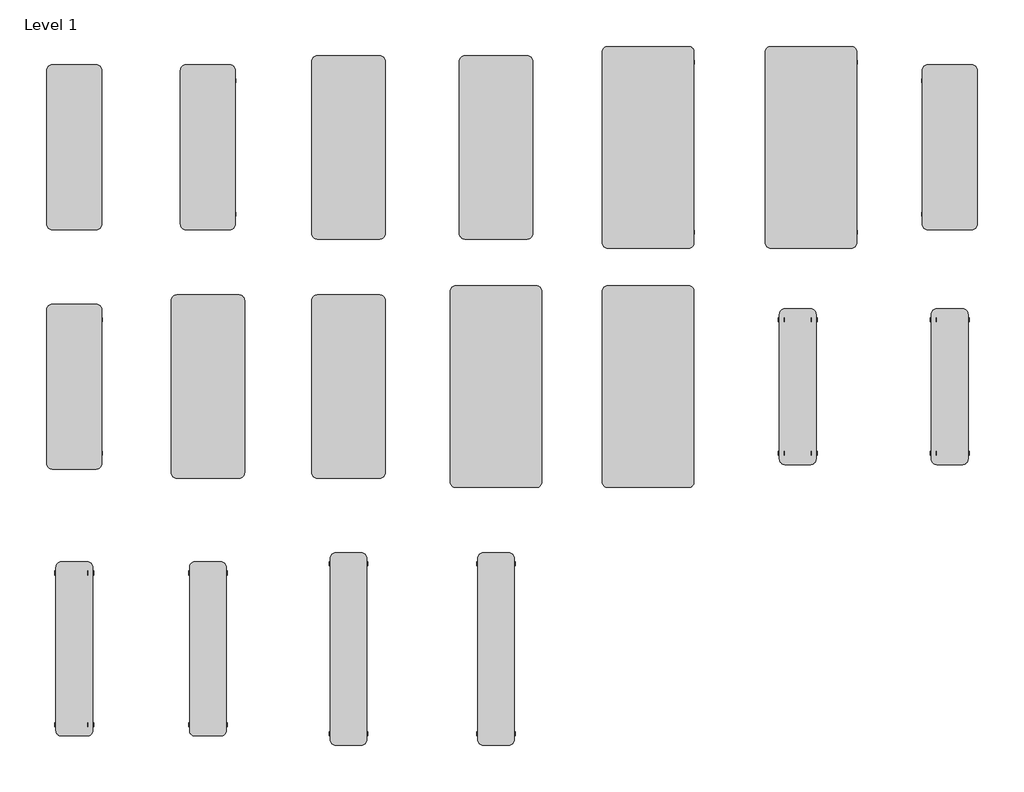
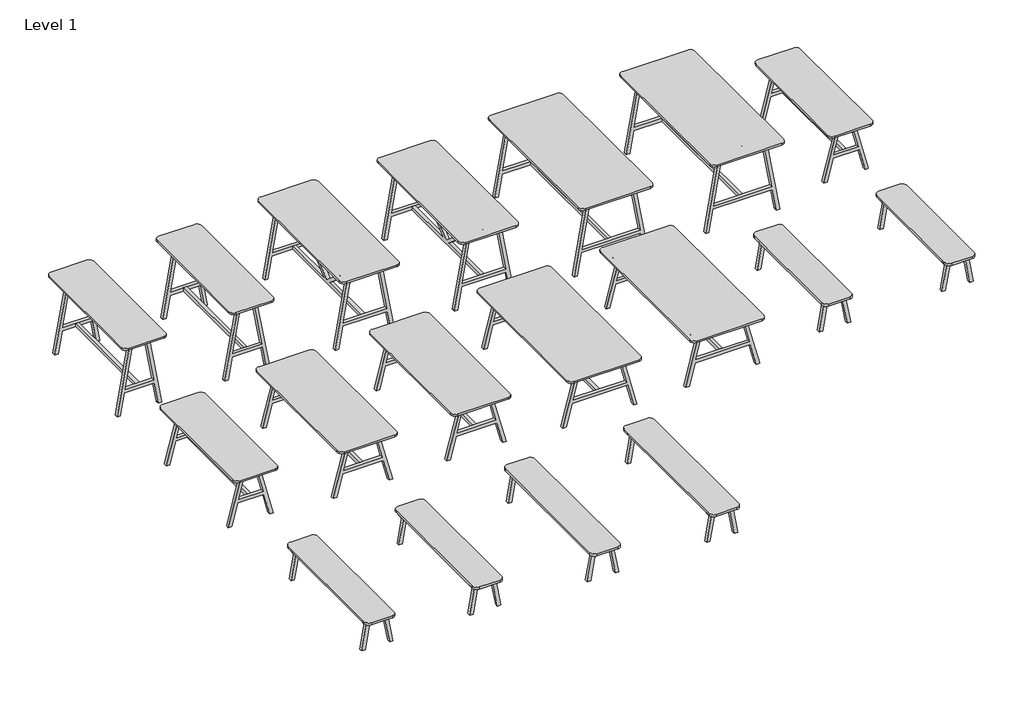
# One storey, incomplete: 18 furniture elements.
"""IFC4 building model written with IfcOpenShell, lengths in millimetres."""

from ifc_helpers import new_model, si_unit, origin, place, context, project, spatial, transform, mapped, element, save
from components import furniture_8b7b97e6, furniture_edffb28d, furniture_c897c1bd, furniture_621fa09e, furniture_62e1d99d, furniture_e7b2d70b, furniture_98158460, furniture_8639195a, furniture_34a17ae2

model = new_model("IFC4")

# Units and contexts
model_context = context("Model", 3, world=origin())
ifc_project = project(units=[si_unit("LENGTHUNIT", "METRE", prefix="MILLI")], contexts=[model_context])

# Site, building, storey
site = spatial("IfcSite", under=ifc_project)
building = spatial("IfcBuilding", under=site)
storey = spatial("IfcBuildingStorey", under=building, Name="Level 1", Elevation=0.0)

# Furniture
placement = place(None, origin())
furniture_shape = furniture_8b7b97e6(model_context)
element("IfcFurniture", 1, ObjectType="Furniture-Chair-LyndonDesign-Agent_AGE_10 : Furniture-Chair-LyndonDesign-Agent_AGE_10", at=placement, inside=storey, context=model_context, shape_type="MappedRepresentation", body=[
    mapped(furniture_shape, transform((2853.2013025, 1589.4019801, 0.0), x_axis=(0.0, 1.0000000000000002, 0.0), y_axis=(-1.0000000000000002, 0.0, 0.0), z_axis=(0.0, 0.0, 1.0))),
])
furniture_2_shape = furniture_edffb28d(model_context)
element("IfcFurniture", 2, ObjectType="Furniture-Chair-LyndonDesign-Agent_AGE_11 : Furniture-Chair-LyndonDesign-Agent_AGE_11", at=placement, inside=storey, context=model_context, shape_type="MappedRepresentation", body=[
    mapped(furniture_2_shape, transform((4386.5773036, 1589.4019801, 0.0), x_axis=(0.0, 1.0, 0.0), y_axis=(-1.0, 0.0, 0.0), z_axis=(0.0, 0.0, 1.0))),
])
element("IfcFurniture", 3, ObjectType="Furniture-Chair-LyndonDesign-Agent_AGE_12 : Furniture-Chair-LyndonDesign-Agent_AGE_12", at=placement, inside=storey, context=model_context, shape_type="MappedRepresentation", body=[
    mapped(furniture_2_shape, transform((5996.6725176, 1589.4019801, 0.0), x_axis=(0.0, 1.0000000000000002, 0.0), y_axis=(-1.0000000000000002, 0.0, 0.0), z_axis=(0.0, 0.0, 1.0))),
])
furniture_3_shape = furniture_c897c1bd(model_context)
element("IfcFurniture", 4, ObjectType="Furniture-Chair-LyndonDesign-Agent_AGE_13 : Furniture-Chair-LyndonDesign-Agent_AGE_13", at=placement, inside=storey, context=model_context, shape_type="MappedRepresentation", body=[
    mapped(furniture_3_shape, transform((7655.7266825, 1589.4019801, 0.0), x_axis=(0.0, 1.0000000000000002, 0.0), y_axis=(-1.0000000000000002, 0.0, 0.0), z_axis=(0.0, 0.0, 1.0))),
])
element("IfcFurniture", 5, ObjectType="Furniture-Chair-LyndonDesign-Agent_AGE_14 : Furniture-Chair-LyndonDesign-Agent_AGE_14", at=placement, inside=storey, context=model_context, shape_type="MappedRepresentation", body=[
    mapped(furniture_3_shape, transform((9432.3834704, 1589.4019801, 0.0), x_axis=(0.0, 1.0000000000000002, 0.0), y_axis=(-1.0000000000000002, 0.0, 0.0), z_axis=(0.0, 0.0, 1.0))),
])
furniture_4_shape = furniture_621fa09e(model_context)
element("IfcFurniture", 6, ObjectType="Furniture-Chair-LyndonDesign-Agent_AGE_15 : Furniture-Chair-LyndonDesign-Agent_AGE_15", at=placement, inside=storey, context=model_context, shape_type="MappedRepresentation", body=[
    mapped(furniture_4_shape, transform((10945.3177664, 1589.4019801, 0.0), x_axis=(0.0, 1.0000000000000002, 0.0), y_axis=(-1.0000000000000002, 0.0, 0.0), z_axis=(0.0, 0.0, 1.0))),
])
element("IfcFurniture", 7, ObjectType="Furniture-Chair-LyndonDesign-Agent_AGE_16 : Furniture-Chair-LyndonDesign-Agent_AGE_16", at=placement, inside=storey, context=model_context, shape_type="MappedRepresentation", body=[
    mapped(furniture_4_shape, transform((1395.7875312, -1020.0626772, 0.0), x_axis=(0.0, 1.0, 0.0), y_axis=(-1.0, 0.0, 0.0), z_axis=(0.0, 0.0, 1.0))),
])
furniture_5_shape = furniture_62e1d99d(model_context)
element("IfcFurniture", 8, ObjectType="Furniture-Chair-LyndonDesign-Agent_AGE_17 : Furniture-Chair-LyndonDesign-Agent_AGE_17", at=placement, inside=storey, context=model_context, shape_type="MappedRepresentation", body=[
    mapped(furniture_5_shape, transform((2853.2013025, -1020.0626772, 0.0), x_axis=(0.0, 1.0000000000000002, 0.0), y_axis=(-1.0000000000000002, 0.0, 0.0), z_axis=(0.0, 0.0, 1.0))),
])
element("IfcFurniture", 9, ObjectType="Furniture-Chair-LyndonDesign-Agent_AGE_18 : Furniture-Chair-LyndonDesign-Agent_AGE_18", at=placement, inside=storey, context=model_context, shape_type="MappedRepresentation", body=[
    mapped(furniture_5_shape, transform((4386.5773036, -1020.0626772, 0.0), x_axis=(0.0, 1.0000000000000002, 0.0), y_axis=(-1.0000000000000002, 0.0, 0.0), z_axis=(0.0, 0.0, 1.0))),
])
furniture_6_shape = furniture_e7b2d70b(model_context)
element("IfcFurniture", 10, ObjectType="Furniture-Chair-LyndonDesign-Agent_AGE_19 : Furniture-Chair-LyndonDesign-Agent_AGE_19", at=placement, inside=storey, context=model_context, shape_type="MappedRepresentation", body=[
    mapped(furniture_6_shape, transform((5996.6725176, -1020.0626772, 0.0), x_axis=(0.0, 1.0000000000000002, 0.0), y_axis=(-1.0000000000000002, 0.0, 0.0), z_axis=(0.0, 0.0, 1.0))),
])
element("IfcFurniture", 11, ObjectType="Furniture-Chair-LyndonDesign-Agent_AGE_20 : Furniture-Chair-LyndonDesign-Agent_AGE_20", at=placement, inside=storey, context=model_context, shape_type="MappedRepresentation", body=[
    mapped(furniture_6_shape, transform((7655.7266825, -1020.0626772, 0.0), x_axis=(0.0, 1.0000000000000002, 0.0), y_axis=(-1.0000000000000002, 0.0, 0.0), z_axis=(0.0, 0.0, 1.0))),
])
furniture_7_shape = furniture_98158460(model_context)
element("IfcFurniture", 12, ObjectType="Furniture-Chair-LyndonDesign-Agent_AGE_21 : Furniture-Chair-LyndonDesign-Agent_AGE_21", at=placement, inside=storey, context=model_context, shape_type="MappedRepresentation", body=[
    mapped(furniture_7_shape, transform((9287.7276931, -1020.0626772, 0.0), x_axis=(0.0, 1.0000000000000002, 0.0), y_axis=(-1.0000000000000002, 0.0, 0.0), z_axis=(0.0, 0.0, 1.0))),
])
element("IfcFurniture", 13, ObjectType="Furniture-Chair-LyndonDesign-Agent_AGE_22 : Furniture-Chair-LyndonDesign-Agent_AGE_22", at=placement, inside=storey, context=model_context, shape_type="MappedRepresentation", body=[
    mapped(furniture_7_shape, transform((10945.3177664, -1020.0626772, 0.0), x_axis=(0.0, 1.0000000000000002, 0.0), y_axis=(-1.0000000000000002, 0.0, 0.0), z_axis=(0.0, 0.0, 1.0))),
])
furniture_8_shape = furniture_8639195a(model_context)
element("IfcFurniture", 14, ObjectType="Furniture-Chair-LyndonDesign-Agent_AGE_23 : Furniture-Chair-LyndonDesign-Agent_AGE_23", at=placement, inside=storey, context=model_context, shape_type="MappedRepresentation", body=[
    mapped(furniture_8_shape, transform((1395.7875312, -3880.9676454, 0.0), x_axis=(0.0, 1.0000000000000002, 0.0), y_axis=(-1.0000000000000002, 0.0, 0.0), z_axis=(0.0, 0.0, 1.0))),
])
element("IfcFurniture", 15, ObjectType="Furniture-Chair-LyndonDesign-Agent_AGE_24 : Furniture-Chair-LyndonDesign-Agent_AGE_24", at=placement, inside=storey, context=model_context, shape_type="MappedRepresentation", body=[
    mapped(furniture_8_shape, transform((2853.2013025, -3880.9676454, 0.0), x_axis=(0.0, 1.0, 0.0), y_axis=(-1.0, 0.0, 0.0), z_axis=(0.0, 0.0, 1.0))),
])
furniture_9_shape = furniture_34a17ae2(model_context)
element("IfcFurniture", 16, ObjectType="Furniture-Chair-LyndonDesign-Agent_AGE_25 : Furniture-Chair-LyndonDesign-Agent_AGE_25", at=placement, inside=storey, context=model_context, shape_type="MappedRepresentation", body=[
    mapped(furniture_9_shape, transform((4386.5773036, -3880.9676454, 0.0), x_axis=(0.0, 1.0000000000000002, 0.0), y_axis=(-1.0000000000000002, 0.0, 0.0), z_axis=(0.0, 0.0, 1.0))),
])
element("IfcFurniture", 17, ObjectType="Furniture-Chair-LyndonDesign-Agent_AGE_26 : Furniture-Chair-LyndonDesign-Agent_AGE_26", at=placement, inside=storey, context=model_context, shape_type="MappedRepresentation", body=[
    mapped(furniture_9_shape, transform((5996.6725176, -3880.9676454, 0.0), x_axis=(0.0, 1.0000000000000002, 0.0), y_axis=(-1.0000000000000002, 0.0, 0.0), z_axis=(0.0, 0.0, 1.0))),
])
element("IfcFurniture", 18, ObjectType="Furniture-Chair-LyndonDesign-Agent_AGE_9 : Furniture-Chair-LyndonDesign-Agent_AGE_9", at=placement, inside=storey, context=model_context, shape_type="MappedRepresentation", body=[
    mapped(furniture_shape, transform((1395.7875312, 1589.4019801, 0.0), x_axis=(0.0, 1.0000000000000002, 0.0), y_axis=(-1.0000000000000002, 0.0, 0.0), z_axis=(0.0, 0.0, 1.0))),
])

save(model, "model.ifc")
